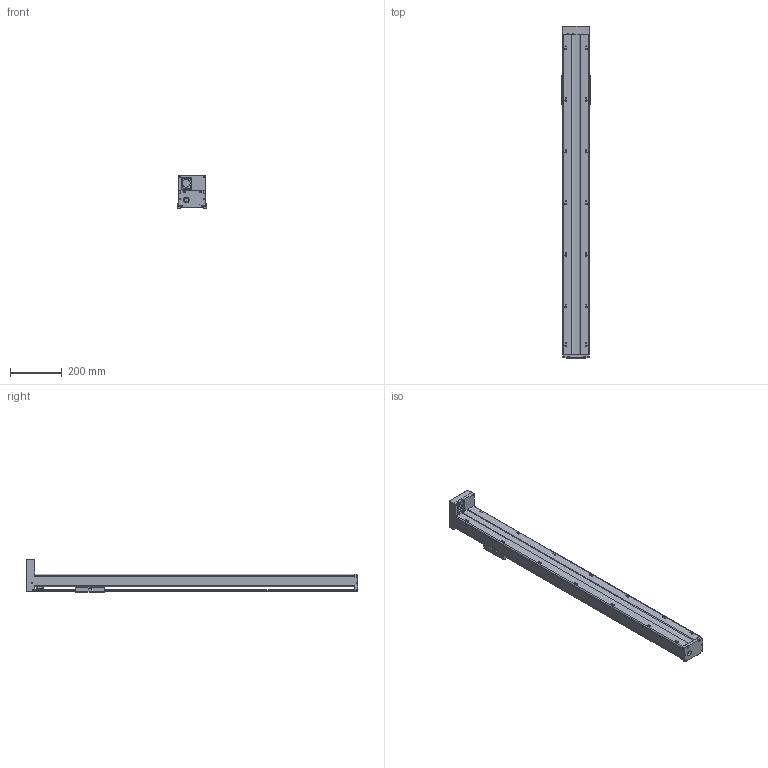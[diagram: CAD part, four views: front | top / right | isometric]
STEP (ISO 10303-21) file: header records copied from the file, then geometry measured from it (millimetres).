
FILE_DESCRIPTION(/* description */ (''),/* implementation_level */ '2;1');
FILE_NAME(/* name */ 'TKA100-FD-1050_asm1.stp',/* time_stamp */ '2016-08-25T15:13:43+08:00',/* author */ (''),/* organization */ (''),/* preprocessor_version */ 'ST-DEVELOPER v15',/* originating_system */ 'SIEMENS PLM Software NX 8.5',/* authorisation */ '');
FILE_SCHEMA (('AUTOMOTIVE_DESIGN { 1 0 10303 214 3 1 1 1 }'));
Length unit declared in the file: millimetre
Products named in the file (3): 200-02; 200-01; TKA100-FD-1050_asm1
Assembly tree (2 placements, depth 2):
  TKA100-FD-1050_asm1
    200-01
    200-02
Bounding box: 110 x 1286 x 127 mm (x, y, z)
Volume: 2616342.6 mm3; surface area: 908760.8 mm2
Topology: 2 solids, 13 shells, 811 faces, 2094 edges, 1362 vertices
Faces by surface type: cylinder 317, plane 303, cone 127, torus 38, bspline 26
Full cylindrical faces by diameter (mm): 2.5 x6, 2.6 x8, 3.3 x10, 3.4 x10, 3.8 x8, 4.2 x23, 4.3 x4, 4.5 x8, 5 x1, 5.5 x24, 6.6 x4, 8 x5, 9 x4, 10 x16, 11 x4, 12 x7, 15.3 x1, 16 x1, 22 x1, 24 x1, 28 x4, 30 x1, 33 x1
Entity records: 28764 total; most frequent: CARTESIAN_POINT 10095, DIRECTION 3902, ORIENTED_EDGE 3508, EDGE_CURVE 1754, AXIS2_PLACEMENT_3D 1570, VERTEX_POINT 1268, EDGE_LOOP 1176, ADVANCED_FACE 811
